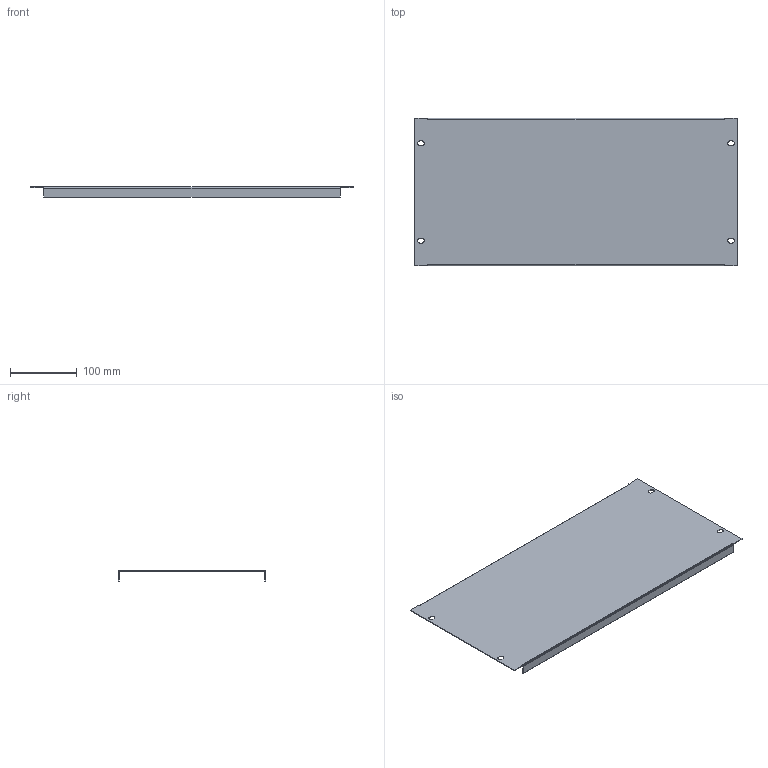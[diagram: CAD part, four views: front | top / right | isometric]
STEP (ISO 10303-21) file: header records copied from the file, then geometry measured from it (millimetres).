
FILE_DESCRIPTION (( 'STEP AP203' ), '1' );
FILE_NAME ('WA119LB.STEP', '2018-12-04T08:03:23', ( '' ), ( '' ), 'SwSTEP 2.0', 'SolidWorks 2017', '' );
FILE_SCHEMA (( 'CONFIG_CONTROL_DESIGN' ));
Length unit declared in the file: millimetre
Products named in the file (1): WA119LB
Bounding box: 483 x 220.5 x 15 mm (x, y, z)
Volume: 118150.6 mm3; surface area: 237879.7 mm2
Topology: 1 solids, 1 shells, 50 faces, 132 edges, 84 vertices
Faces by surface type: plane 34, cylinder 16
Entity records: 1629 total; most frequent: DIRECTION 270, CARTESIAN_POINT 267, ORIENTED_EDGE 264, EDGE_CURVE 132, LINE 96, VECTOR 96, AXIS2_PLACEMENT_3D 87, VERTEX_POINT 84
